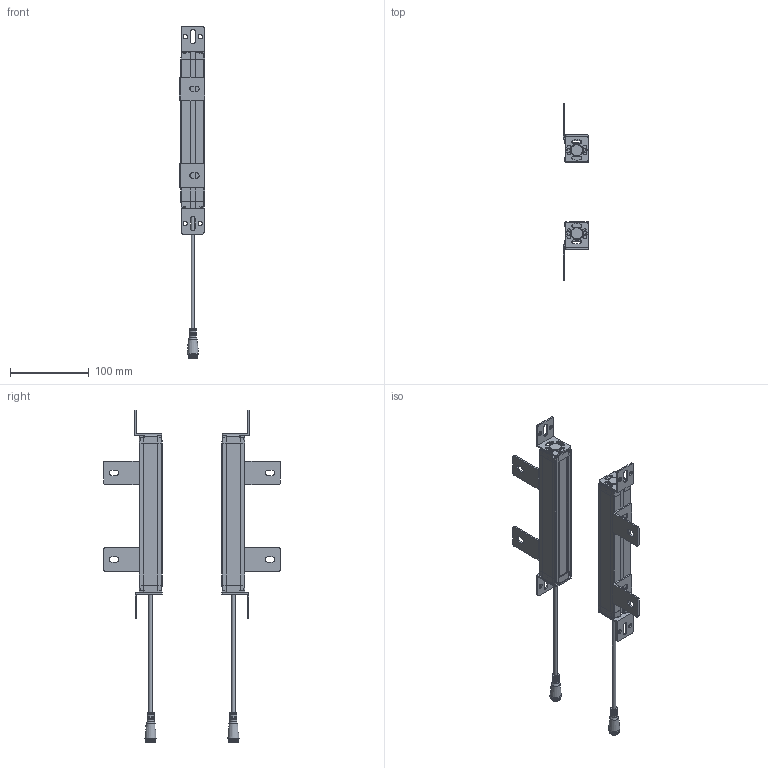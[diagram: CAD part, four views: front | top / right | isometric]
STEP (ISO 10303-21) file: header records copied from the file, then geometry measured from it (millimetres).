
FILE_DESCRIPTION(/* description */ (''),/* implementation_level */ '2;1');
FILE_NAME(/* name */ '1810（29x30）.stp',/* time_stamp */ '2023-04-28T15:44:47+08:00',/* author */ (''),/* organization */ (''),/* preprocessor_version */ 'ST-DEVELOPER v16.7',/* originating_system */ 'SIEMENS PLM Software NX 12.0',/* authorisation */ '');
FILE_SCHEMA (('AUTOMOTIVE_DESIGN { 1 0 10303 214 3 1 1 1 }'));
Products named in the file (1): 7220（29x30）_stp
Bounding box: 32.03 x 223.99 x 421 mm (x, y, z)
Volume: 161699.9 mm3; surface area: 171424.7 mm2
Topology: 34 solids, 34 shells, 1610 faces, 4267 edges, 2771 vertices
Faces by surface type: plane 750, cylinder 648, bspline 88, sphere 36, cone 36, torus 32, extrusion 20
Full cylindrical faces by diameter (mm): 1.533 x6, 4.4 x4, 9 x2, 12.5 x2
Entity records: 56427 total; most frequent: CARTESIAN_POINT 16064, DIRECTION 8330, ORIENTED_EDGE 8324, EDGE_CURVE 4162, AXIS2_PLACEMENT_3D 2918, VERTEX_POINT 2696, VECTOR 2494, LINE 2474
